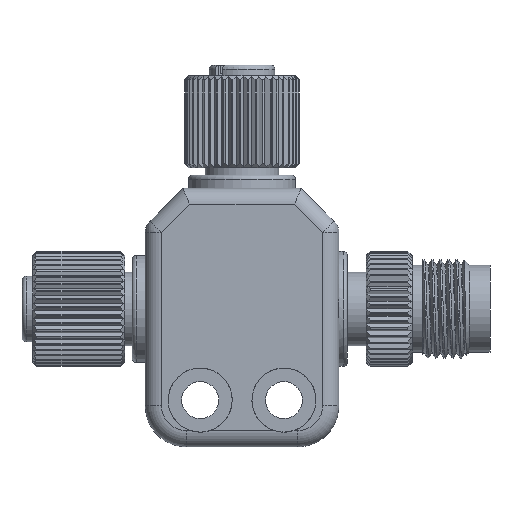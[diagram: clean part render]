
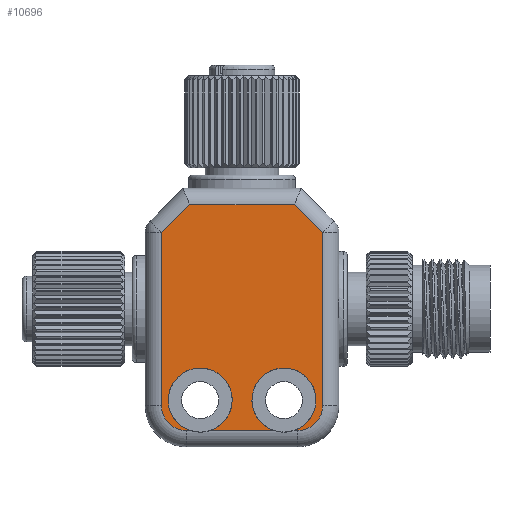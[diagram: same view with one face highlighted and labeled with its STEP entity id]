
A CAD part, front view. The second image highlights one B-rep face of the part: STEP entity #10696.
In plain terms, the highlighted planar face has unit normal (0, -1, 0).
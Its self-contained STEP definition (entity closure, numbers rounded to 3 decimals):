
#80 = CARTESIAN_POINT ( 'NONE',  ( 6.8, -8.5, -14.8 ) ) ;
#282 = ORIENTED_EDGE ( 'NONE', *, *, #19713, .T. ) ;
#408 = DIRECTION ( 'NONE',  ( 0., 0., -1. ) ) ;
#805 = DIRECTION ( 'NONE',  ( 1., 0., 0. ) ) ;
#997 = VERTEX_POINT ( 'NONE', #2195 ) ;
#1065 = ORIENTED_EDGE ( 'NONE', *, *, #12261, .T. ) ;
#1982 = LINE ( 'NONE', #8051, #6613 ) ;
#2195 = CARTESIAN_POINT ( 'NONE',  ( 9.8, -8.5, 9.272 ) ) ;
#2210 = CARTESIAN_POINT ( 'NONE',  ( -6.8, -8.5, -11.8 ) ) ;
#2305 = CARTESIAN_POINT ( 'NONE',  ( 6.8, -8.5, -14.8 ) ) ;
#2332 = ORIENTED_EDGE ( 'NONE', *, *, #3279, .T. ) ;
#2471 = VERTEX_POINT ( 'NONE', #23453 ) ;
#2925 = VERTEX_POINT ( 'NONE', #19129 ) ;
#3060 = AXIS2_PLACEMENT_3D ( 'NONE', #18434, #7515, #18204 ) ;
#3279 = EDGE_CURVE ( 'NONE', #22243, #16959, #20491, .T. ) ;
#4123 = EDGE_CURVE ( 'NONE', #11838, #11388, #23665, .T. ) ;
#4569 = VECTOR ( 'NONE', #20593, 1000. ) ;
#5537 = DIRECTION ( 'NONE',  ( 1., 0., 0. ) ) ;
#5772 = CARTESIAN_POINT ( 'NONE',  ( -6.8, -8.5, -14.8 ) ) ;
#6209 = VECTOR ( 'NONE', #16486, 1000. ) ;
#6331 = CARTESIAN_POINT ( 'NONE',  ( 6.8, -8.5, -11.8 ) ) ;
#6442 = EDGE_CURVE ( 'NONE', #16249, #6870, #6989, .T. ) ;
#6613 = VECTOR ( 'NONE', #805, 1000. ) ;
#6870 = VERTEX_POINT ( 'NONE', #5772 ) ;
#6989 = CIRCLE ( 'NONE', #22196, 3. ) ;
#7044 = EDGE_LOOP ( 'NONE', ( #15673, #12830, #16323, #2332, #13024, #14732, #12106, #1065, #9007, #21722, #282, #12198 ) ) ;
#7213 = VECTOR ( 'NONE', #18371, 1000. ) ;
#7515 = DIRECTION ( 'NONE',  ( 0., 1., 0. ) ) ;
#7614 = DIRECTION ( 'NONE',  ( 0., -1., 0. ) ) ;
#8051 = CARTESIAN_POINT ( 'NONE',  ( 6.8, -8.5, -14.8 ) ) ;
#9007 = ORIENTED_EDGE ( 'NONE', *, *, #18142, .T. ) ;
#9209 = AXIS2_PLACEMENT_3D ( 'NONE', #19768, #21467, #17976 ) ;
#9274 = CARTESIAN_POINT ( 'NONE',  ( -3.867, -8.5, -14.8 ) ) ;
#9304 = LINE ( 'NONE', #80, #17848 ) ;
#9329 = LINE ( 'NONE', #16507, #10471 ) ;
#9408 = CARTESIAN_POINT ( 'NONE',  ( -9.8, -8.5, 9.272 ) ) ;
#9459 = LINE ( 'NONE', #17007, #4569 ) ;
#9534 = DIRECTION ( 'NONE',  ( 0., 0., -1. ) ) ;
#9734 = CIRCLE ( 'NONE', #21765, 3.9 ) ;
#9899 = EDGE_CURVE ( 'NONE', #16542, #22243, #1982, .T. ) ;
#10099 = FACE_OUTER_BOUND ( 'NONE', #7044, .T. ) ;
#10360 = EDGE_CURVE ( 'NONE', #20569, #2925, #9459, .T. ) ;
#10471 = VECTOR ( 'NONE', #12879, 1000. ) ;
#10696 = ADVANCED_FACE ( 'NONE', ( #10099 ), #19524, .T. ) ;
#10951 = CARTESIAN_POINT ( 'NONE',  ( 5.786, -8.5, 13.286 ) ) ;
#11059 = CIRCLE ( 'NONE', #3060, 3.9 ) ;
#11141 = CARTESIAN_POINT ( 'NONE',  ( 9.8, -8.5, 9.272 ) ) ;
#11214 = VECTOR ( 'NONE', #19486, 1000. ) ;
#11388 = VERTEX_POINT ( 'NONE', #20100 ) ;
#11412 = DIRECTION ( 'NONE',  ( 0., 1., 0. ) ) ;
#11501 = EDGE_CURVE ( 'NONE', #16959, #997, #17181, .T. ) ;
#11838 = VERTEX_POINT ( 'NONE', #9274 ) ;
#12106 = ORIENTED_EDGE ( 'NONE', *, *, #10360, .T. ) ;
#12198 = ORIENTED_EDGE ( 'NONE', *, *, #18214, .T. ) ;
#12261 = EDGE_CURVE ( 'NONE', #2925, #15001, #22969, .T. ) ;
#12830 = ORIENTED_EDGE ( 'NONE', *, *, #14541, .T. ) ;
#12879 = DIRECTION ( 'NONE',  ( 0., 0., -1. ) ) ;
#12922 = DIRECTION ( 'NONE',  ( 1., 0., 0. ) ) ;
#13024 = ORIENTED_EDGE ( 'NONE', *, *, #11501, .T. ) ;
#14541 = EDGE_CURVE ( 'NONE', #11388, #16542, #9734, .T. ) ;
#14732 = ORIENTED_EDGE ( 'NONE', *, *, #17141, .T. ) ;
#15001 = VERTEX_POINT ( 'NONE', #9408 ) ;
#15013 = DIRECTION ( 'NONE',  ( 0., -1., 0. ) ) ;
#15664 = AXIS2_PLACEMENT_3D ( 'NONE', #6331, #15013, #20983 ) ;
#15673 = ORIENTED_EDGE ( 'NONE', *, *, #4123, .T. ) ;
#16239 = CARTESIAN_POINT ( 'NONE',  ( 6.8, -8.5, -14.8 ) ) ;
#16249 = VERTEX_POINT ( 'NONE', #18420 ) ;
#16323 = ORIENTED_EDGE ( 'NONE', *, *, #9899, .T. ) ;
#16486 = DIRECTION ( 'NONE',  ( -0.707, 0., 0.707 ) ) ;
#16507 = CARTESIAN_POINT ( 'NONE',  ( -9.8, -8.5, -11.8 ) ) ;
#16542 = VERTEX_POINT ( 'NONE', #21395 ) ;
#16959 = VERTEX_POINT ( 'NONE', #19167 ) ;
#17007 = CARTESIAN_POINT ( 'NONE',  ( -7.2, -8.5, 12.7 ) ) ;
#17141 = EDGE_CURVE ( 'NONE', #997, #20569, #21107, .T. ) ;
#17181 = LINE ( 'NONE', #11141, #7213 ) ;
#17530 = CARTESIAN_POINT ( 'NONE',  ( -9.8, -8.5, 9.272 ) ) ;
#17848 = VECTOR ( 'NONE', #12922, 1000. ) ;
#17976 = DIRECTION ( 'NONE',  ( 0., 0., -1. ) ) ;
#18142 = EDGE_CURVE ( 'NONE', #15001, #16249, #9329, .T. ) ;
#18204 = DIRECTION ( 'NONE',  ( 0., 0., 1. ) ) ;
#18214 = EDGE_CURVE ( 'NONE', #2471, #11838, #11059, .T. ) ;
#18371 = DIRECTION ( 'NONE',  ( 0., 0., 1. ) ) ;
#18420 = CARTESIAN_POINT ( 'NONE',  ( -9.8, -8.5, -11.8 ) ) ;
#18434 = CARTESIAN_POINT ( 'NONE',  ( -5.1, -8.5, -11.1 ) ) ;
#18728 = VECTOR ( 'NONE', #5537, 1000. ) ;
#19129 = CARTESIAN_POINT ( 'NONE',  ( -6.372, -8.5, 12.7 ) ) ;
#19167 = CARTESIAN_POINT ( 'NONE',  ( 9.8, -8.5, -11.8 ) ) ;
#19486 = DIRECTION ( 'NONE',  ( -0.707, 0., -0.707 ) ) ;
#19524 = PLANE ( 'NONE',  #9209 ) ;
#19713 = EDGE_CURVE ( 'NONE', #6870, #2471, #9304, .T. ) ;
#19768 = CARTESIAN_POINT ( 'NONE',  ( 6.8, -8.5, -11.8 ) ) ;
#20100 = CARTESIAN_POINT ( 'NONE',  ( 3.867, -8.5, -14.8 ) ) ;
#20491 = CIRCLE ( 'NONE', #15664, 3. ) ;
#20569 = VERTEX_POINT ( 'NONE', #22893 ) ;
#20593 = DIRECTION ( 'NONE',  ( -1., 0., 0. ) ) ;
#20983 = DIRECTION ( 'NONE',  ( 0., 0., -1. ) ) ;
#21107 = LINE ( 'NONE', #10951, #6209 ) ;
#21395 = CARTESIAN_POINT ( 'NONE',  ( 6.333, -8.5, -14.8 ) ) ;
#21467 = DIRECTION ( 'NONE',  ( 0., -1., 0. ) ) ;
#21722 = ORIENTED_EDGE ( 'NONE', *, *, #6442, .T. ) ;
#21765 = AXIS2_PLACEMENT_3D ( 'NONE', #22411, #11412, #408 ) ;
#22196 = AXIS2_PLACEMENT_3D ( 'NONE', #2210, #7614, #9534 ) ;
#22243 = VERTEX_POINT ( 'NONE', #2305 ) ;
#22411 = CARTESIAN_POINT ( 'NONE',  ( 5.1, -8.5, -11.1 ) ) ;
#22893 = CARTESIAN_POINT ( 'NONE',  ( 6.372, -8.5, 12.7 ) ) ;
#22969 = LINE ( 'NONE', #17530, #11214 ) ;
#23453 = CARTESIAN_POINT ( 'NONE',  ( -6.333, -8.5, -14.8 ) ) ;
#23665 = LINE ( 'NONE', #16239, #18728 ) ;
